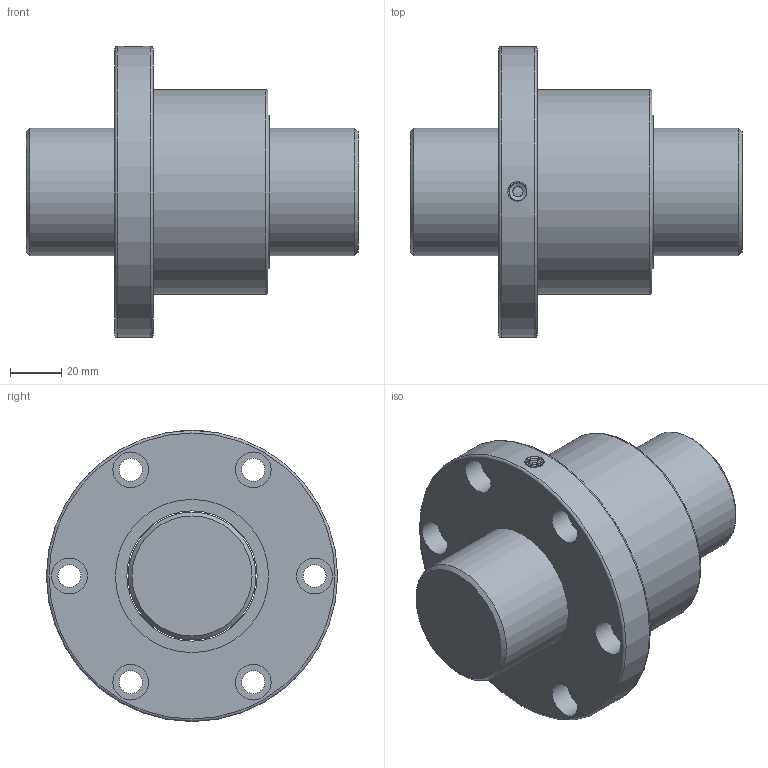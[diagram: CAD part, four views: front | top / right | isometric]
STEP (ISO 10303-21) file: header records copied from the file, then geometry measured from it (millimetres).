
FILE_DESCRIPTION(/* description */ ('Unknown','CAx-IF Rec.Pracs.---Representation and Presentation of Product Manufacturing Information (PMI)---4.0---2014-10-13','CAx-IF Rec.Pracs.---3D Tessellated Geometry---0.4---2014-09-14','2;1'),/* implementation_level */ '2;1');
FILE_NAME(/* name */ 'SFV5005-4.8',/* time_stamp */ '2020-12-08T11:06:51+08:00',/* author */ ('Unknown'),/* organization */ ('Unknown'),/* preprocessor_version */ 'ST-DEVELOPER v16.7',/* originating_system */ 'Solid Edge',/* authorisation */ 'Unknown');
FILE_SCHEMA (('AP242_MANAGED_MODEL_BASED_3D_ENGINEERING_MIM_LF { 1 0 10303 442 1 1 4 }'));
Length unit declared in the file: millimetre
Products named in the file (1): SFV5005-4.8
Bounding box: 130 x 114 x 114 mm (x, y, z)
Volume: 500062.3 mm3; surface area: 71182 mm2
Topology: 2 solids, 2 shells, 48 faces, 97 edges, 64 vertices
Faces by surface type: cylinder 24, plane 16, cone 3, torus 3, bspline 2
Full cylindrical faces by diameter (mm): 4 x1, 6.917 x1, 9 x6, 14 x6, 50 x1, 51 x2, 60 x3, 80 x1, 114 x1
Entity records: 3381 total; most frequent: CARTESIAN_POINT 2409, DIRECTION 200, ORIENTED_EDGE 122, EDGE_LOOP 103, FACE_BOUND 103, AXIS2_PLACEMENT_3D 101, EDGE_CURVE 61, VERTEX_POINT 56
